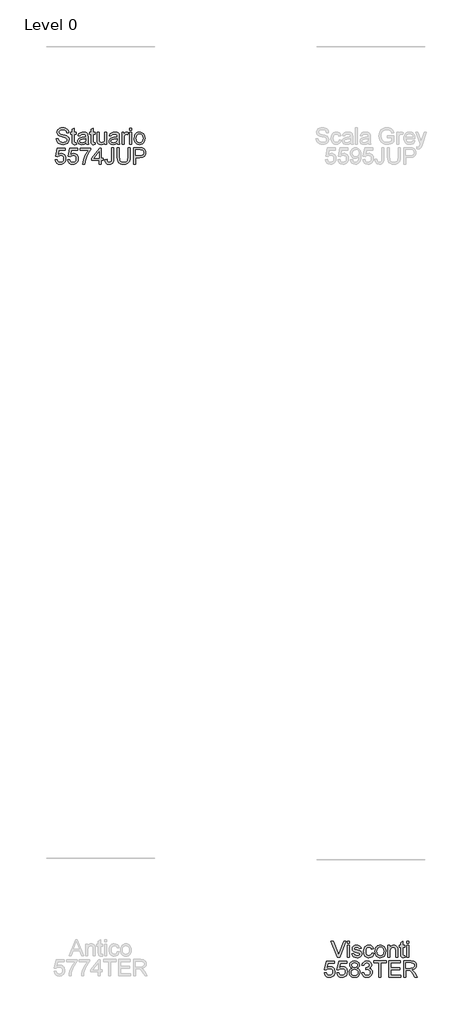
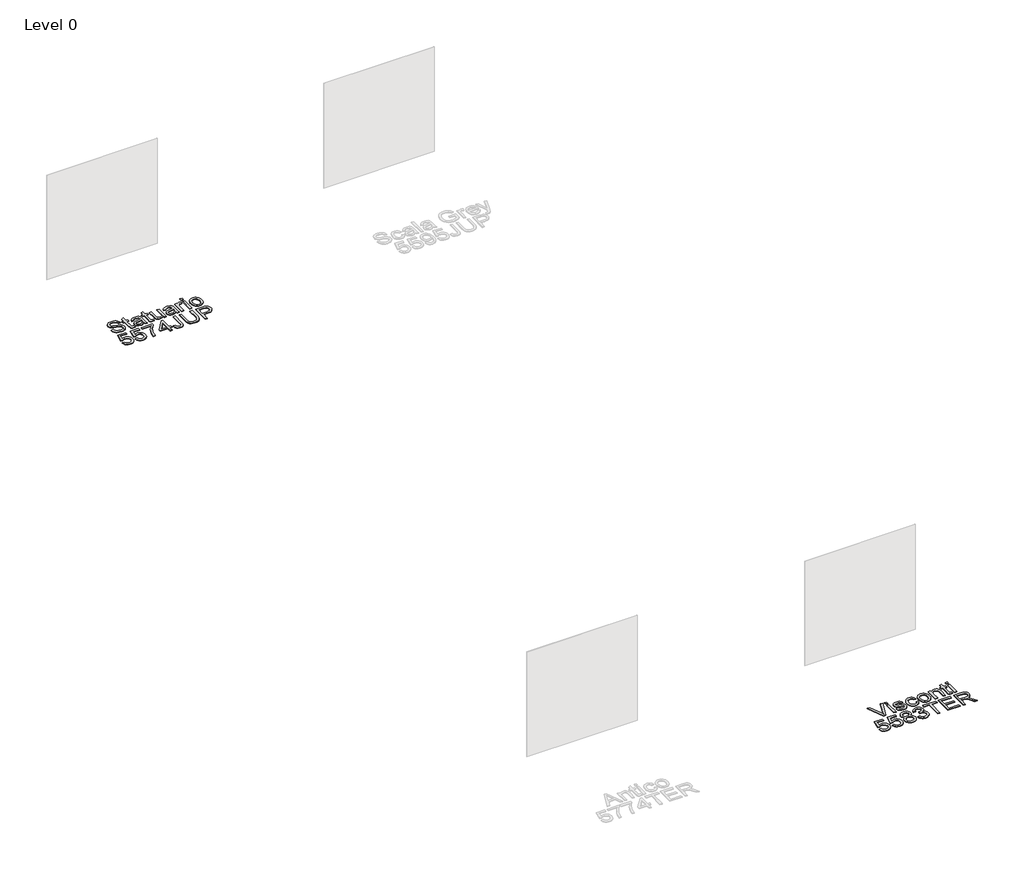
# One storey, part 26 of 29: 2 proxies.
"""IFC4 building model written with IfcOpenShell, lengths in millimetres."""

from ifc_helpers import new_model, si_unit, origin, origin_with_axes, place, context, project, spatial, polyline, outline, extrude, element, save

model = new_model("IFC4")

# Units and contexts
model_context = context("Model", 3, world=origin())
ifc_project = project(units=[si_unit("LENGTHUNIT", "METRE", prefix="MILLI")], contexts=[model_context])

# Site, building, storey
site = spatial("IfcSite", under=ifc_project)
building = spatial("IfcBuilding", under=site)
storey = spatial("IfcBuildingStorey", under=building, Name="Level 0", Elevation=0.0)

# Proxies
placement = place(None, origin())
element("IfcBuildingElementProxy", 1, Name="300mm Arial", ObjectType="300mm Arial", at=placement, inside=storey, context=model_context, shape_type="SweptSolid", body=[
    extrude(outline(polyline([(32732.3496088, -6900.2649241), (32770.0207251, -6900.2649241), (32774.3433386, -6921.1698185), (32782.160831, -6937.9728286), (32794.3561191, -6951.308551), (32811.8121198, -6961.8115819), (32833.1492755, -6968.6265959), (32856.9880288, -6970.8982672), (32877.9756966, -6969.1784189), (32896.3514023, -6964.0188739), (32911.241426, -6955.8518936), (32921.7720481, -6945.1097394), (32928.0352391, -6932.7764955), (32930.1229694, -6919.8362463), (32928.5594709, -6907.2270909), (32923.8689755, -6896.3285868), (32914.3408318, -6887.0303694), (32898.2643886, -6879.222074), (32843.4131831, -6864.837888), (32807.4067329, -6855.3189414), (32784.3681229, -6846.2598472), (32765.6153382, -6833.5863125), (32752.3256011, -6818.2272392), (32744.4069412, -6800.5137211), (32741.7673879, -6780.7768521), (32745.0323406, -6758.7131294), (32754.8271987, -6738.1393289), (32770.8944448, -6720.7017223), (32792.9765616, -6708.0465817), (32819.4824594, -6700.3486509), (32848.8210485, -6697.782674), (32880.6060529, -6700.4682126), (32908.4179317, -6708.5248283), (32931.2634036, -6721.7869742), (32948.1491872, -6740.0891034), (32958.8361591, -6762.2907818), (32963.0851962, -6787.2515752), (32925.4140799, -6787.2515752), (32918.4978984, -6764.7739853), (32904.0769242, -6748.5503893), (32881.5441519, -6738.7279401), (32850.2925765, -6735.4537903), (32818.305237, -6738.6911519), (32796.361076, -6748.4032365), (32783.6691471, -6762.695452), (32779.4385042, -6779.6732061), (32782.4367424, -6794.1493626), (32791.4314572, -6805.7928278), (32812.6950366, -6816.2038882), (32852.9413268, -6826.8356779), (32894.4752041, -6836.9340387), (32919.6015443, -6845.7448125), (32941.0766558, -6859.4116286), (32956.0586501, -6876.2790181), (32964.8602268, -6896.1630399), (32967.7940857, -6918.8797531), (32964.4187684, -6942.102304), (32954.2928165, -6963.9452975), (32937.8300972, -6982.7440675), (32915.4444778, -6996.8339479), (32888.5247128, -7005.6355246), (32858.4595568, -7008.5693835), (32821.5517956, -7005.4055984), (32791.1739398, -6995.9142429), (32766.9765016, -6980.0585289), (32748.609993, -6957.8016682), (32736.819375, -6930.6887651), (32732.3496088, -6900.2649241)])), origin_with_axes(), (0.0, 0.0, 1.0), 10.0),
    extrude(outline(polyline([(33099.6429928, -6972.4433716), (33104.3518823, -7004.96414), (33076.1721215, -7008.5693835), (33058.0907214, -7007.005885), (33044.6078463, -7002.3153896), (33035.0797026, -6995.0865084), (33028.8624969, -6985.9078526), (33025.4411944, -6970.1441091), (33024.3007602, -6943.1599648), (33024.3007602, -6820.213802), (32996.0474229, -6820.213802), (32996.0474229, -6782.5426857), (33024.3007602, -6782.5426857), (33024.3007602, -6728.758338), (33061.9718765, -6706.6118419), (33061.9718765, -6782.5426857), (33099.6429928, -6782.5426857), (33099.6429928, -6820.213802), (33061.9718765, -6820.213802), (33061.9718765, -6942.0563188), (33063.9584393, -6961.4804881), (33070.3963742, -6968.3598814), (33083.2354558, -6970.8982672), (33099.6429928, -6972.4433716)])), origin_with_axes(), (0.0, 0.0, 1.0), 10.0),
    extrude(outline(polyline([(33278.5807952, -6975.6071568), (33260.5821686, -6991.0398064), (33242.0501131, -7001.1381672), (33222.5615644, -7006.7115794), (33201.6934583, -7008.5693835), (33170.2119565, -7004.0996173), (33146.9894056, -6990.6903186), (33132.6695989, -6970.3280501), (33127.89633, -6944.9993748), (33129.6989518, -6929.3827841), (33135.1068171, -6915.2009331), (33143.4485414, -6903.0608273), (33154.0527399, -6893.5694718), (33180.4298789, -6881.2086368), (33213.0242237, -6875.5432541), (33251.5414686, -6869.5835657), (33278.360066, -6862.5938078), (33278.5807952, -6854.2060983), (33275.9872272, -6837.3938912), (33268.206523, -6826.3942195), (33250.8057046, -6818.2272392), (33226.5622811, -6815.5049125), (33204.1214794, -6817.3167313), (33188.4497064, -6822.7521878), (33177.7627345, -6832.8045633), (33170.2763359, -6848.4671392), (33132.6052196, -6843.7582497), (33139.144322, -6823.156858), (33148.9023919, -6806.9700502), (33162.7899373, -6794.590821), (33181.7174659, -6785.4121652), (33204.8664405, -6779.7283884), (33231.4183235, -6777.8337961), (33256.8849546, -6779.5076592), (33277.0724791, -6784.5292485), (33292.2935966, -6792.0800264), (33302.8610069, -6801.3414556), (33309.8691589, -6812.7917827), (33314.4125016, -6826.9092543), (33316.2519115, -6859.8714811), (33316.2519115, -6906.7396473), (33318.1648979, -6972.1858542), (33325.6696906, -7003.860494), (33287.9985743, -7003.860494), (33278.5807952, -6975.6071568)]), holes=[polyline([(33278.5807952, -6900.2649241), (33217.8066896, -6911.8164188), (33185.3962859, -6917.9232599), (33170.7177943, -6927.8560738), (33165.5674463, -6942.3506244), (33168.3725465, -6953.5526311), (33176.7878472, -6962.7312869), (33190.6294072, -6968.8565221), (33209.7132857, -6970.8982672), (33229.9467955, -6968.64499), (33247.8258604, -6961.8851583), (33262.3204111, -6951.9247533), (33272.4003777, -6940.069756), (33276.870144, -6927.8560738), (33278.360066, -6910.933502), (33278.5807952, -6900.2649241)])]), origin_with_axes(), (0.0, 0.0, 1.0), 10.0),
    extrude(outline(polyline([(33448.1008186, -6972.4433716), (33452.8097082, -7004.96414), (33424.6299473, -7008.5693835), (33406.5485473, -7007.005885), (33393.0656721, -7002.3153896), (33383.5375285, -6995.0865084), (33377.3203227, -6985.9078526), (33373.8990202, -6970.1441091), (33372.758586, -6943.1599648), (33372.758586, -6820.213802), (33344.5052488, -6820.213802), (33344.5052488, -6782.5426857), (33372.758586, -6782.5426857), (33372.758586, -6728.758338), (33410.4297023, -6706.6118419), (33410.4297023, -6782.5426857), (33448.1008186, -6782.5426857), (33448.1008186, -6820.213802), (33410.4297023, -6820.213802), (33410.4297023, -6942.0563188), (33412.4162651, -6961.4804881), (33418.8542, -6968.3598814), (33431.6932816, -6970.8982672), (33448.1008186, -6972.4433716)])), origin_with_axes(), (0.0, 0.0, 1.0), 10.0),
    extrude(outline(polyline([(33627.0386211, -7003.860494), (33627.0386211, -6965.8214957), (33613.4085932, -6984.5236966), (33597.5344851, -6997.8824116), (33579.4162968, -7005.8976405), (33559.0540284, -7008.5693835), (33540.7059139, -7006.6931853), (33523.6269922, -7001.0645908), (33509.2979885, -6992.6033049), (33499.1996277, -6982.2290327), (33487.9792269, -6954.4907302), (33485.7719349, -6919.4683643), (33485.7719349, -6782.5426857), (33523.4430512, -6782.5426857), (33523.4430512, -6901.7364521), (33525.7239196, -6940.1433324), (33531.2145584, -6952.9548229), (33540.6231404, -6962.6944987), (33553.3242663, -6968.8473251), (33568.6925366, -6970.8982672), (33584.9437238, -6968.8013398), (33600.1464472, -6962.5105577), (33612.6820262, -6952.605335), (33620.93178, -6939.6650858), (33625.5119108, -6921.9423707), (33627.0386211, -6897.6897502), (33627.0386211, -6782.5426857), (33664.7097374, -6782.5426857), (33664.7097374, -7003.860494), (33627.0386211, -7003.860494)])), origin_with_axes(), (0.0, 0.0, 1.0), 10.0),
    extrude(outline(polyline([(33857.7742084, -6975.6071568), (33839.7755818, -6991.0398064), (33821.2435263, -7001.1381672), (33801.7549776, -7006.7115794), (33780.8868715, -7008.5693835), (33749.4053697, -7004.0996173), (33726.1828188, -6990.6903186), (33711.8630121, -6970.3280501), (33707.0897432, -6944.9993748), (33708.892365, -6929.3827841), (33714.3002303, -6915.2009331), (33722.6419546, -6903.0608273), (33733.2461531, -6893.5694718), (33759.6232921, -6881.2086368), (33792.2176369, -6875.5432541), (33830.7348818, -6869.5835657), (33857.5534793, -6862.5938078), (33857.7742084, -6854.2060983), (33855.1806404, -6837.3938912), (33847.3999362, -6826.3942195), (33829.9991178, -6818.2272392), (33805.7556943, -6815.5049125), (33783.3148926, -6817.3167313), (33767.6431196, -6822.7521878), (33756.9561477, -6832.8045633), (33749.4697491, -6848.4671392), (33711.7986328, -6843.7582497), (33718.3377352, -6823.156858), (33728.0958051, -6806.9700502), (33741.9833505, -6794.590821), (33760.9108791, -6785.4121652), (33784.0598537, -6779.7283884), (33810.6117367, -6777.8337961), (33836.0783678, -6779.5076592), (33856.2658923, -6784.5292485), (33871.4870098, -6792.0800264), (33882.0544201, -6801.3414556), (33889.0625721, -6812.7917827), (33893.6059148, -6826.9092543), (33895.4453248, -6859.8714811), (33895.4453248, -6906.7396473), (33897.3583111, -6972.1858542), (33904.8631038, -7003.860494), (33867.1919875, -7003.860494), (33857.7742084, -6975.6071568)]), holes=[polyline([(33857.7742084, -6900.2649241), (33797.0001028, -6911.8164188), (33764.5896991, -6917.9232599), (33749.9112075, -6927.8560738), (33744.7608595, -6942.3506244), (33747.5659597, -6953.5526311), (33755.9812604, -6962.7312869), (33769.8228205, -6968.8565221), (33788.906699, -6970.8982672), (33809.1402087, -6968.64499), (33827.0192737, -6961.8851583), (33841.5138243, -6951.9247533), (33851.5937909, -6940.069756), (33856.0635572, -6927.8560738), (33857.5534793, -6910.933502), (33857.7742084, -6900.2649241)])]), origin_with_axes(), (0.0, 0.0, 1.0), 10.0),
    extrude(outline(polyline([(33947.2431097, -7003.860494), (33947.2431097, -6782.5426857), (33980.2053364, -6782.5426857), (33980.2053364, -6815.2841833), (33992.3822305, -6796.3014723), (34003.6026313, -6785.1178596), (34014.8598204, -6779.654812), (34027.147079, -6777.8337961), (34045.9090608, -6780.7400639), (34064.9653481, -6789.4588672), (34052.3837839, -6823.2304343), (34039.1400321, -6817.4362929), (34025.8962802, -6815.5049125), (34014.6482882, -6817.3627165), (34004.5959127, -6822.9361288), (33996.4749177, -6831.8020848), (33991.0210671, -6843.5375205), (33986.4409363, -6864.5803706), (33984.914226, -6887.5362071), (33984.914226, -7003.860494), (33947.2431097, -7003.860494)])), origin_with_axes(), (0.0, 0.0, 1.0), 10.0),
    extrude(outline(polyline([(34088.5097958, -6740.1626798), (34088.5097958, -6702.4915635), (34126.1809121, -6702.4915635), (34126.1809121, -6740.1626798), (34088.5097958, -6740.1626798)])), origin_with_axes(), (0.0, 0.0, 1.0), 10.0),
    extrude(outline(polyline([(34088.5097958, -7003.860494), (34088.5097958, -6782.5426857), (34126.1809121, -6782.5426857), (34126.1809121, -7003.860494), (34088.5097958, -7003.860494)])), origin_with_axes(), (0.0, 0.0, 1.0), 10.0),
    extrude(outline(polyline([(34173.2698075, -6893.2015898), (34175.3069541, -6864.5389839), (34181.4183937, -6839.8403064), (34191.6041264, -6819.1055575), (34205.8641523, -6802.334737), (34220.2207471, -6791.6155754), (34236.0672641, -6783.9590314), (34253.4037031, -6779.3651049), (34272.2300642, -6777.8337961), (34293.0130977, -6779.698498), (34311.8049698, -6785.2926036), (34328.6056807, -6794.6161129), (34343.4152303, -6807.669026), (34355.5024531, -6824.0098843), (34364.1361837, -6843.1972296), (34369.316422, -6865.2310619), (34371.0431681, -6890.1113811), (34367.9897476, -6928.1687735), (34358.8294859, -6957.1394806), (34343.8290975, -6978.8353213), (34323.2552969, -6995.0681143), (34298.8187354, -7005.1940662), (34272.2300642, -7008.5693835), (34251.1435281, -7006.7115794), (34232.176912, -7001.1381672), (34215.3302159, -6991.8491468), (34200.6034398, -6978.8445183), (34188.6449756, -6962.3450108), (34180.1032156, -6942.5713536), (34174.9781595, -6919.5235466), (34173.2698075, -6893.2015898)]), holes=[polyline([(34210.9409238, -6893.1280134), (34215.3003255, -6927.2214773), (34228.3785304, -6951.5108861), (34248.0602171, -6966.0514219), (34272.2300642, -6970.8982672), (34296.2895467, -6966.0238308), (34315.9344452, -6951.4005215), (34329.0126502, -6926.789216), (34333.3720518, -6891.950791), (34328.985059, -6858.8506085), (34315.8240806, -6834.8922936), (34296.151591, -6820.3517577), (34272.2300642, -6815.5049125), (34248.0602171, -6820.3333636), (34228.3785304, -6834.8187172), (34215.3003255, -6859.0529436), (34210.9409238, -6893.1280134)])]), origin_with_axes(), (0.0, 0.0, 1.0), 10.0),
    extrude(outline(polyline([(32711.1596059, -7289.7338254), (32748.8307222, -7285.0249358), (32755.7469037, -7307.6404815), (32767.8134331, -7323.8364863), (32784.9751282, -7333.5761621), (32807.1768066, -7336.8227207), (32834.1793451, -7332.3069693), (32854.4128548, -7318.7597148), (32867.0496013, -7297.7444558), (32871.2618502, -7270.8246908), (32867.3163158, -7245.4776213), (32855.4797126, -7226.0902402), (32835.6600701, -7213.7845875), (32807.7654178, -7209.6827032), (32789.4908797, -7211.3197781), (32774.6928264, -7216.2310027), (32753.5396117, -7233.2271509), (32715.8684954, -7228.5182614), (32748.8307222, -7073.1249066), (32894.8062979, -7073.1249066), (32894.8062979, -7110.7960229), (32779.2913514, -7110.7960229), (32763.17812, -7193.790201), (32790.0886879, -7177.4562404), (32818.2868429, -7172.0115869), (32836.6326581, -7173.6992456), (32853.4839528, -7178.7622215), (32868.8407268, -7187.2005148), (32882.7029802, -7199.0141254), (32894.1785992, -7213.4810848), (32902.3754699, -7229.8794248), (32907.2935923, -7248.2091452), (32908.9329665, -7268.470246), (32903.0284605, -7306.1413624), (32895.6478279, -7322.9351754), (32885.3149424, -7338.3678251), (32869.6615635, -7354.1729553), (32851.3962224, -7365.4623341), (32830.5189192, -7372.2359613), (32807.0296538, -7374.4938371), (32770.0299222, -7368.6904986), (32754.3512514, -7361.4363255), (32740.5533773, -7351.2804832), (32729.0731598, -7338.7288093), (32720.3474587, -7324.2871418), (32711.1596059, -7289.7338254)])), origin_with_axes(), (0.0, 0.0, 1.0), 10.0),
    extrude(outline(polyline([(32941.8951933, -7289.7338254), (32979.5663096, -7285.0249358), (32986.4824911, -7307.6404815), (32998.5490205, -7323.8364863), (33015.7107156, -7333.5761621), (33037.912394, -7336.8227207), (33064.9149324, -7332.3069693), (33085.1484422, -7318.7597148), (33097.7851887, -7297.7444558), (33101.9974376, -7270.8246908), (33098.0519032, -7245.4776213), (33086.2153, -7226.0902402), (33066.3956575, -7213.7845875), (33038.5010052, -7209.6827032), (33020.2264671, -7211.3197781), (33005.4284138, -7216.2310027), (32984.2751991, -7233.2271509), (32946.6040828, -7228.5182614), (32979.5663096, -7073.1249066), (33125.5418852, -7073.1249066), (33125.5418852, -7110.7960229), (33010.0269388, -7110.7960229), (32993.9137074, -7193.790201), (33020.8242753, -7177.4562404), (33049.0224303, -7172.0115869), (33067.3682455, -7173.6992456), (33084.2195401, -7178.7622215), (33099.5763142, -7187.2005148), (33113.4385676, -7199.0141254), (33124.9141866, -7213.4810848), (33133.1110573, -7229.8794248), (33138.0291797, -7248.2091452), (33139.6685539, -7268.470246), (33133.7640478, -7306.1413624), (33126.3834153, -7322.9351754), (33116.0505298, -7338.3678251), (33100.3971509, -7354.1729553), (33082.1318098, -7365.4623341), (33061.2545066, -7372.2359613), (33037.7652412, -7374.4938371), (33000.7655095, -7368.6904986), (32985.0868388, -7361.4363255), (32971.2889647, -7351.2804832), (32959.8087472, -7338.7288093), (32951.0830461, -7324.2871418), (32941.8951933, -7289.7338254)])), origin_with_axes(), (0.0, 0.0, 1.0), 10.0),
    extrude(outline(polyline([(33172.6307806, -7110.7960229), (33172.6307806, -7073.1249066), (33370.4041412, -7073.1249066), (33370.4041412, -7103.5855358), (33342.2151834, -7139.2608923), (33314.302137, -7184.6299393), (33289.6816344, -7235.5540045), (33271.3703081, -7287.8944154), (33262.3939875, -7327.0554538), (33257.3907923, -7369.7849475), (33219.719676, -7369.7849475), (33223.7939691, -7330.9550029), (33234.6924732, -7284.8042066), (33252.1208827, -7235.8850983), (33275.7848921, -7188.7502177), (33303.4128299, -7146.1402856), (33332.7330249, -7110.7960229), (33172.6307806, -7110.7960229)])), origin_with_axes(), (0.0, 0.0, 1.0), 10.0),
    extrude(outline(polyline([(33525.797496, -7369.7849475), (33525.797496, -7299.1516044), (33389.2396994, -7299.1516044), (33389.2396994, -7261.4804881), (33535.2152751, -7073.1249066), (33563.4686123, -7073.1249066), (33563.4686123, -7261.4804881), (33601.1397286, -7261.4804881), (33601.1397286, -7299.1516044), (33563.4686123, -7299.1516044), (33563.4686123, -7369.7849475), (33525.797496, -7369.7849475)]), holes=[polyline([(33525.797496, -7261.4804881), (33525.797496, -7145.0826249), (33435.5928308, -7261.4804881), (33525.797496, -7261.4804881)])]), origin_with_axes(), (0.0, 0.0, 1.0), 10.0),
    extrude(outline(polyline([(33629.3930658, -7285.1720886), (33667.0641821, -7280.3160463), (33670.9821254, -7307.7048608), (33679.940052, -7324.8297677), (33693.6252622, -7333.8244825), (33711.7250564, -7336.8227207), (33725.6401928, -7335.1212665), (33737.5135842, -7330.0169038), (33746.6738459, -7321.9786822), (33752.4495932, -7311.4756513), (33756.5330834, -7274.1356288), (33756.5330834, -7068.4160171), (33794.2041997, -7068.4160171), (33794.2041997, -7273.4734412), (33791.9325284, -7307.0150821), (33785.1175144, -7332.0034666), (33773.3636847, -7350.2596106), (33756.275566, -7363.60453), (33734.8188486, -7371.7715103), (33709.9592228, -7374.4938371), (33675.1391919, -7368.8744396), (33661.1918658, -7361.8501927), (33649.5529992, -7352.0162472), (33640.4295257, -7339.409391), (33634.028379, -7324.0664126), (33629.3930658, -7285.1720886)])), origin_with_axes(), (0.0, 0.0, 1.0), 10.0),
    extrude(outline(polyline([(34057.9020138, -7068.4160171), (34095.5731301, -7068.4160171), (34095.5731301, -7242.277048), (34093.0163503, -7282.9923878), (34085.3460107, -7314.3451308), (34071.017007, -7338.533372), (34048.4842347, -7357.7552063), (34017.6925118, -7370.3091794), (33978.5866557, -7374.4938371), (33940.3361252, -7370.8518053), (33909.7559344, -7359.92571), (33886.8368861, -7342.0926303), (33871.5697833, -7317.7296452), (33862.9889357, -7285.052527), (33860.1286532, -7242.277048), (33860.1286532, -7068.4160171), (33897.7997695, -7068.4160171), (33897.7997695, -7240.9526728), (33899.6575736, -7274.8070134), (33905.2309858, -7298.3790523), (33915.3293466, -7314.7038158), (33930.7619963, -7326.8163305), (33950.8851414, -7334.3211232), (33975.0549885, -7336.8227207), (34013.3698983, -7331.8747079), (34027.7126976, -7325.6896919), (34038.8457265, -7317.0306694), (34047.1828522, -7304.8537754), (34053.137942, -7288.1151446), (34057.9020138, -7240.9526728), (34057.9020138, -7068.4160171)])), origin_with_axes(), (0.0, 0.0, 1.0), 10.0),
    extrude(outline(polyline([(34161.4975837, -7369.7849475), (34161.4975837, -7068.4160171), (34273.1865574, -7068.4160171), (34318.2153136, -7071.2854966), (34338.2924735, -7076.6473767), (34354.8195721, -7085.375377), (34368.1277033, -7097.8649708), (34378.5479608, -7114.5116311), (34385.2802013, -7134.1473326), (34387.5242815, -7155.6040499), (34386.0090675, -7174.1039158), (34381.4634256, -7191.1230566), (34373.8873558, -7206.6614723), (34363.280858, -7220.7191631), (34348.7196288, -7232.3718253), (34329.2793646, -7240.6951554), (34304.9600655, -7245.6891535), (34275.7617314, -7247.3538195), (34199.1687, -7247.3538195), (34199.1687, -7369.7849475), (34161.4975837, -7369.7849475)]), holes=[polyline([(34199.1687, -7209.6827032), (34277.9690233, -7209.6827032), (34311.3727085, -7206.2246125), (34333.4456282, -7195.8503402), (34345.751281, -7179.2036799), (34349.8531652, -7156.9284251), (34347.4343411, -7140.0058533), (34340.1778687, -7125.7320319), (34328.985059, -7114.9898777), (34314.7572229, -7108.6623073), (34277.0861066, -7106.0871334), (34199.1687, -7106.0871334), (34199.1687, -7209.6827032)])]), origin_with_axes(), (0.0, 0.0, 1.0), 10.0),
])
element("IfcBuildingElementProxy", 2, Name="300mm Arial", ObjectType="300mm Arial", at=placement, inside=storey, context=model_context, shape_type="SweptSolid", body=[
    extrude(outline(polyline([(37936.7448453, -22033.860494), (37816.8153149, -21732.4915635), (37857.1351816, -21732.4915635), (37937.4070329, -21949.6155171), (37953.6674171, -21998.5438224), (37969.7070721, -21949.6155171), (38050.1996526, -21732.4915635), (38090.5195193, -21732.4915635), (37975.6667604, -22033.860494), (37936.7448453, -22033.860494)])), origin_with_axes(), (0.0, 0.0, 1.0), 10.0),
    extrude(outline(polyline([(38120.8329957, -22033.860494), (38120.8329957, -21812.5426857), (38158.504112, -21812.5426857), (38158.504112, -22033.860494), (38120.8329957, -22033.860494)])), origin_with_axes(), (0.0, 0.0, 1.0), 10.0),
    extrude(outline(polyline([(38120.8329957, -21770.1626798), (38120.8329957, -21732.4915635), (38158.504112, -21732.4915635), (38158.504112, -21770.1626798), (38120.8329957, -21770.1626798)])), origin_with_axes(), (0.0, 0.0, 1.0), 10.0),
    extrude(outline(polyline([(38200.8841179, -21967.9360404), (38238.5552342, -21963.2271509), (38244.4965284, -21979.3403823), (38255.9928407, -21991.1861825), (38273.1177476, -21998.470246), (38295.9448254, -22000.8982672), (38318.4959917, -21998.6725811), (38334.3517057, -21991.9955229), (38343.7326966, -21982.3202265), (38346.8596935, -21971.0998256), (38343.7143025, -21961.4981055), (38334.2781293, -21954.1772538), (38295.503367, -21943.4350996), (38238.7759634, -21925.0042116), (38224.4193685, -21915.7427824), (38214.0175051, -21903.4831149), (38207.6991318, -21889.0069584), (38205.5930074, -21873.0960621), (38207.2852646, -21858.5003439), (38212.3620361, -21845.0266659), (38220.3634695, -21833.2084568), (38230.8297123, -21823.5791455), (38254.7788302, -21812.4323211), (38287.1892339, -21807.8337961), (38311.7085689, -21809.6824032), (38333.0273305, -21815.2282242), (38350.1706315, -21823.9286334), (38362.1635845, -21835.2410048), (38370.1098356, -21850.0022698), (38375.1130308, -21869.0493601), (38337.4419145, -21873.7582497), (38332.6870397, -21861.9032524), (38323.2784577, -21852.972917), (38309.1241979, -21847.3719136), (38290.1322899, -21845.5049125), (38268.5008286, -21847.2891401), (38254.0798544, -21852.6418232), (38245.9680564, -21860.3673451), (38243.2641237, -21869.2700893), (38247.752284, -21880.2329728), (38261.8053763, -21888.5471059), (38294.2525682, -21896.5669334), (38349.5452321, -21914.2988455), (38364.1501473, -21922.7785255), (38375.2233954, -21934.3852025), (38382.2039562, -21949.1556646), (38384.5308099, -21967.1267001), (38381.799286, -21985.7047408), (38373.6047146, -22003.1791356), (38360.2597952, -22018.1795239), (38342.0772276, -22029.3355454), (38320.1146725, -22036.260924), (38295.4297906, -22038.5693835), (38257.4459746, -22034.1180114), (38229.7260663, -22020.763895), (38211.2216019, -21998.654187), (38200.8841179, -21967.9360404)])), origin_with_axes(), (0.0, 0.0, 1.0), 10.0),
    extrude(outline(polyline([(38568.1775018, -21953.8093718), (38605.8486182, -21958.5182614), (38595.3455872, -21992.0231141), (38575.6087181, -22017.3425924), (38548.4958151, -22033.2626857), (38515.8646821, -22038.5693835), (38494.7367593, -22036.7184772), (38475.7931358, -22031.1657584), (38459.0338117, -22021.9112269), (38444.4587869, -22008.9548829), (38432.6612711, -21992.5404481), (38424.2344742, -21972.9116444), (38419.178396, -21950.0684718), (38417.4930366, -21924.0109302), (38420.3717132, -21890.4876834), (38429.0077431, -21861.4342028), (38443.5390819, -21837.9725286), (38464.1036854, -21821.2247008), (38488.7057938, -21811.1815223), (38515.3496473, -21807.8337961), (38547.180637, -21812.4323211), (38572.628874, -21826.2278959), (38590.885018, -21848.4847566), (38601.1397286, -21878.4671392), (38563.4686123, -21883.1760288), (38556.6352042, -21866.7409006), (38545.9942175, -21854.9594797), (38532.1342634, -21847.8685543), (38515.6439529, -21845.5049125), (38491.2993619, -21850.1586197), (38471.9763601, -21864.1197414), (38459.3672047, -21888.1424357), (38455.1641529, -21922.9808606), (38459.2752342, -21958.2883351), (38471.6084781, -21982.3938029), (38490.581992, -21996.2721511), (38514.6138833, -22000.8982672), (38534.1208261, -21998.0103936), (38550.1144959, -21989.3467726), (38561.748764, -21974.6866751), (38568.1775018, -21953.8093718)])), origin_with_axes(), (0.0, 0.0, 1.0), 10.0),
    extrude(outline(polyline([(38629.3930658, -21923.2015898), (38631.4302124, -21894.5389839), (38637.541652, -21869.8403064), (38647.7273848, -21849.1055575), (38661.9874106, -21832.334737), (38676.3440055, -21821.6155754), (38692.1905224, -21813.9590314), (38709.5269614, -21809.3651049), (38728.3533225, -21807.8337961), (38749.136356, -21809.698498), (38767.9282282, -21815.2926036), (38784.728939, -21824.6161129), (38799.5384886, -21837.669026), (38811.6257114, -21854.0098843), (38820.259442, -21873.1972296), (38825.4396803, -21895.2310619), (38827.1664265, -21920.1113811), (38824.1130059, -21958.1687735), (38814.9527442, -21987.1394806), (38799.9523559, -22008.8353213), (38779.3785553, -22025.0681143), (38754.9419937, -22035.1940662), (38728.3533225, -22038.5693835), (38707.2667864, -22036.7115794), (38688.3001703, -22031.1381672), (38671.4534742, -22021.8491468), (38656.7266981, -22008.8445183), (38644.768234, -21992.3450108), (38636.2264739, -21972.5713536), (38631.1014179, -21949.5235466), (38629.3930658, -21923.2015898)]), holes=[polyline([(38667.0641821, -21923.1280134), (38671.4235838, -21957.2214773), (38684.5017887, -21981.5108861), (38704.1834755, -21996.0514219), (38728.3533225, -22000.8982672), (38752.412805, -21996.0238308), (38772.0577036, -21981.4005215), (38785.1359085, -21956.789216), (38789.4953101, -21921.950791), (38785.1083174, -21888.8506085), (38771.947339, -21864.8922936), (38752.2748493, -21850.3517577), (38728.3533225, -21845.5049125), (38704.1834755, -21850.3333636), (38684.5017887, -21864.8187172), (38671.4235838, -21889.0529436), (38667.0641821, -21923.1280134)])]), origin_with_axes(), (0.0, 0.0, 1.0), 10.0),
    extrude(outline(polyline([(38869.5464323, -22033.860494), (38869.5464323, -21812.5426857), (38907.2175486, -21812.5426857), (38907.2175486, -21843.4447733), (38920.3049506, -21827.8649708), (38936.0227088, -21816.7365404), (38954.3708233, -21810.0594822), (38975.3492941, -21807.8337961), (38993.9181378, -21809.6272209), (39010.923483, -21815.0074951), (39025.105334, -21823.303234), (39035.2036947, -21833.8430532), (39046.497672, -21861.5445674), (39048.4842347, -21897.964885), (39048.4842347, -22033.860494), (39010.8131184, -22033.860494), (39010.8131184, -21903.0416565), (39006.4721109, -21869.7115477), (39000.4664373, -21859.7879309), (38991.1314317, -21852.0900002), (38979.1660698, -21847.1511844), (38965.2693274, -21845.5049125), (38943.2056048, -21849.2021265), (38924.3976378, -21860.2937687), (38916.8813488, -21869.3482643), (38911.5125709, -21881.7228949), (38907.2175486, -21916.4325611), (38907.2175486, -22033.860494), (38869.5464323, -22033.860494)])), origin_with_axes(), (0.0, 0.0, 1.0), 10.0),
    extrude(outline(polyline([(39180.3331418, -22002.4433716), (39185.0420314, -22034.96414), (39156.8622705, -22038.5693835), (39138.7808705, -22037.005885), (39125.2979953, -22032.3153896), (39115.7698517, -22025.0865084), (39109.5526459, -22015.9078526), (39106.1313434, -22000.1441091), (39104.9909092, -21973.1599648), (39104.9909092, -21850.213802), (39076.737572, -21850.213802), (39076.737572, -21812.5426857), (39104.9909092, -21812.5426857), (39104.9909092, -21758.758338), (39142.6620255, -21736.6118419), (39142.6620255, -21812.5426857), (39180.3331418, -21812.5426857), (39180.3331418, -21850.213802), (39142.6620255, -21850.213802), (39142.6620255, -21972.0563188), (39144.6485883, -21991.4804881), (39151.0865232, -21998.3598814), (39163.9256048, -22000.8982672), (39180.3331418, -22002.4433716)])), origin_with_axes(), (0.0, 0.0, 1.0), 10.0),
    extrude(outline(polyline([(39218.0042581, -21770.1626798), (39218.0042581, -21732.4915635), (39255.6753744, -21732.4915635), (39255.6753744, -21770.1626798), (39218.0042581, -21770.1626798)])), origin_with_axes(), (0.0, 0.0, 1.0), 10.0),
    extrude(outline(polyline([(39218.0042581, -22033.860494), (39218.0042581, -21812.5426857), (39255.6753744, -21812.5426857), (39255.6753744, -22033.860494), (39218.0042581, -22033.860494)])), origin_with_axes(), (0.0, 0.0, 1.0), 10.0),
    extrude(outline(polyline([(37689.969603, -22319.7338254), (37727.6407193, -22315.0249358), (37734.5569008, -22337.6404815), (37746.6234302, -22353.8364863), (37763.7851253, -22363.5761621), (37785.9868037, -22366.8227207), (37812.9893421, -22362.3069693), (37833.2228519, -22348.7597148), (37845.8595984, -22327.7444558), (37850.0718473, -22300.8246908), (37846.1263129, -22275.4776213), (37834.2897097, -22256.0902402), (37814.4700672, -22243.7845875), (37786.5754149, -22239.6827032), (37768.3008768, -22241.3197781), (37753.5028235, -22246.2310027), (37732.3496088, -22263.2271509), (37694.6784925, -22258.5182614), (37727.6407193, -22103.1249066), (37873.616295, -22103.1249066), (37873.616295, -22140.7960229), (37758.1013485, -22140.7960229), (37741.9881171, -22223.790201), (37768.898685, -22207.4562404), (37797.09684, -22202.0115869), (37815.4426552, -22203.6992456), (37832.2939498, -22208.7622215), (37847.6507239, -22217.2005148), (37861.5129773, -22229.0141254), (37872.9885963, -22243.4810848), (37881.185467, -22259.8794248), (37886.1035894, -22278.2091452), (37887.7429636, -22298.470246), (37881.8384575, -22336.1413624), (37874.457825, -22352.9351754), (37864.1249395, -22368.3678251), (37848.4715606, -22384.1729553), (37830.2062195, -22395.4623341), (37809.3289163, -22402.2359613), (37785.8396509, -22404.4938371), (37748.8399192, -22398.6904986), (37733.1612485, -22391.4363255), (37719.3633744, -22381.2804832), (37707.8831569, -22368.7288093), (37699.1574558, -22354.2871418), (37689.969603, -22319.7338254)])), origin_with_axes(), (0.0, 0.0, 1.0), 10.0),
    extrude(outline(polyline([(37920.7051903, -22319.7338254), (37958.3763066, -22315.0249358), (37965.2924881, -22337.6404815), (37977.3590176, -22353.8364863), (37994.5207127, -22363.5761621), (38016.7223911, -22366.8227207), (38043.7249295, -22362.3069693), (38063.9584393, -22348.7597148), (38076.5951858, -22327.7444558), (38080.8074346, -22300.8246908), (38076.8619002, -22275.4776213), (38065.025297, -22256.0902402), (38045.2056546, -22243.7845875), (38017.3110023, -22239.6827032), (37999.0364642, -22241.3197781), (37984.2384109, -22246.2310027), (37963.0851962, -22263.2271509), (37925.4140799, -22258.5182614), (37958.3763066, -22103.1249066), (38104.3518823, -22103.1249066), (38104.3518823, -22140.7960229), (37988.8369358, -22140.7960229), (37972.7237045, -22223.790201), (37999.6342724, -22207.4562404), (38027.8324273, -22202.0115869), (38046.1782426, -22203.6992456), (38063.0295372, -22208.7622215), (38078.3863113, -22217.2005148), (38092.2485647, -22229.0141254), (38103.7241837, -22243.4810848), (38111.9210544, -22259.8794248), (38116.8391768, -22278.2091452), (38118.4785509, -22298.470246), (38112.5740449, -22336.1413624), (38105.1934124, -22352.9351754), (38094.8605269, -22368.3678251), (38079.207148, -22384.1729553), (38060.9418069, -22395.4623341), (38040.0645037, -22402.2359613), (38016.5752383, -22404.4938371), (37979.5755066, -22398.6904986), (37963.8968358, -22391.4363255), (37950.0989617, -22381.2804832), (37938.6187442, -22368.7288093), (37929.8930432, -22354.2871418), (37920.7051903, -22319.7338254)])), origin_with_axes(), (0.0, 0.0, 1.0), 10.0),
    extrude(outline(polyline([(38206.3287714, -22233.7965913), (38186.159641, -22223.8637774), (38172.0053812, -22210.3992964), (38163.6452629, -22193.6790597), (38160.8585568, -22173.9789789), (38162.37607, -22158.6153071), (38166.9286097, -22144.5300252), (38174.5161759, -22131.7231332), (38185.1387685, -22120.1946312), (38198.2859513, -22110.6664875), (38213.447288, -22103.8606706), (38249.8124232, -22098.4160171), (38286.3982876, -22103.9894293), (38301.7251713, -22110.9561946), (38315.0746892, -22120.709666), (38325.8904198, -22132.4634957), (38333.6159417, -22145.4313361), (38338.2512549, -22159.613187), (38339.7963592, -22175.0090485), (38337.0464413, -22194.0745329), (38328.7966876, -22210.509661), (38314.9551275, -22223.8913686), (38295.4297906, -22233.7965913), (38318.6155534, -22245.7435591), (38335.4921399, -22263.3375155), (38345.7836387, -22285.732332), (38349.2141383, -22312.0818799), (38347.5126841, -22330.8714528), (38342.4083214, -22348.0975272), (38333.9010503, -22363.7601031), (38321.9908707, -22377.8591806), (38307.303182, -22389.5118428), (38290.4633837, -22397.8351729), (38271.4714757, -22402.829171), (38250.327458, -22404.4938371), (38229.1834403, -22402.8222732), (38210.1915323, -22397.8075818), (38193.351734, -22389.4497627), (38178.6640454, -22377.748816), (38166.7538658, -22363.5508703), (38158.2465946, -22347.7020541), (38153.1422319, -22330.2023674), (38151.4407777, -22311.0518103), (38155.0092331, -22283.6813898), (38165.7145991, -22261.1670117), (38183.0050529, -22244.2812282), (38206.3287714, -22233.7965913)]), holes=[polyline([(38189.111894, -22309.7274351), (38195.4026761, -22338.0911369), (38204.1122824, -22350.2588339), (38217.6595368, -22359.317928), (38233.8831328, -22364.9465226), (38250.6217636, -22366.8227207), (38276.2631387, -22362.8771864), (38295.503367, -22351.0405832), (38307.5331083, -22333.1155329), (38311.543022, -22310.9046575), (38307.4043496, -22288.316703), (38294.9883322, -22269.9961796), (38275.3066455, -22257.8560738), (38249.3709648, -22253.8093718), (38224.0882747, -22257.8008915), (38205.0411844, -22269.7754504), (38193.0942166, -22287.7464859), (38189.111894, -22309.7274351)]), polyline([(38198.5296731, -22175.0826249), (38201.8682022, -22191.52695), (38211.8837895, -22204.6603373), (38228.2821295, -22213.268776), (38250.7689164, -22216.1382555), (38272.7314715, -22213.2871701), (38288.8814911, -22204.7339137), (38298.814305, -22192.0419848), (38302.1252429, -22176.774882), (38298.7039404, -22160.9283651), (38288.4400327, -22147.822569), (38272.0692839, -22139.0209923), (38250.327458, -22136.0871334), (38228.4476763, -22138.9566129), (38212.1045187, -22147.5650516), (38201.9233845, -22160.1834041), (38198.5296731, -22175.0826249)])]), origin_with_axes(), (0.0, 0.0, 1.0), 10.0),
    extrude(outline(polyline([(38382.1763651, -22319.7338254), (38419.8474814, -22315.0249358), (38428.2811761, -22338.6981422), (38440.6328141, -22354.6826149), (38457.5094006, -22363.7876943), (38479.517941, -22366.8227207), (38505.3432571, -22362.6472601), (38525.2824612, -22350.1208782), (38538.0295723, -22331.4324728), (38542.2786094, -22308.7709419), (38538.0663605, -22287.2590422), (38525.429614, -22269.8122386), (38506.2997503, -22258.2515469), (38482.6081498, -22254.397983), (38456.1942225, -22258.5182614), (38460.3880773, -22220.8471451), (38466.421342, -22221.2886035), (38488.9909024, -22218.5846708), (38509.1692298, -22210.4728728), (38523.406263, -22196.7508744), (38528.1519408, -22177.2163404), (38524.7122441, -22160.9467592), (38514.3931542, -22147.7489926), (38498.6478048, -22139.0025982), (38478.9293298, -22136.0871334), (38459.1740667, -22139.0301893), (38443.0240471, -22147.8593572), (38431.2334291, -22162.574637), (38424.5563709, -22183.1760288), (38386.8852546, -22178.4671392), (38397.9768968, -22144.6403898), (38417.7137658, -22119.3852908), (38444.7163043, -22103.6583355), (38477.6049546, -22098.4160171), (38501.2873581, -22101.0003881), (38523.038381, -22108.7535011), (38541.3772985, -22120.9855775), (38554.8233854, -22137.0068384), (38563.0731392, -22155.4653175), (38565.8230571, -22175.0090485), (38563.2110949, -22193.2192072), (38555.3752084, -22209.7371088), (38542.4257622, -22223.8085951), (38524.4731208, -22234.6795081), (38548.0543567, -22244.2076518), (38565.5287515, -22260.4312477), (38576.3444821, -22282.4673793), (38579.9497257, -22309.4331295), (38578.1471039, -22328.5445992), (38572.7392386, -22346.1477526), (38563.7261297, -22362.2425899), (38551.1077773, -22376.829111), (38535.7349084, -22388.9324287), (38518.4582502, -22397.5776555), (38499.2778027, -22402.7647917), (38478.1935658, -22404.4938371), (38459.1372785, -22403.0177105), (38441.7732483, -22398.589331), (38426.1014753, -22391.2086985), (38412.1219595, -22380.875813), (38400.4003194, -22368.1976797), (38391.5021737, -22353.781304), (38385.4275222, -22337.6266859), (38382.1763651, -22319.7338254)])), origin_with_axes(), (0.0, 0.0, 1.0), 10.0),
    extrude(outline(polyline([(38702.3808537, -22399.7849475), (38702.3808537, -22136.0871334), (38603.4941734, -22136.0871334), (38603.4941734, -22098.4160171), (38838.9386503, -22098.4160171), (38838.9386503, -22136.0871334), (38740.05197, -22136.0871334), (38740.05197, -22399.7849475), (38702.3808537, -22399.7849475)])), origin_with_axes(), (0.0, 0.0, 1.0), 10.0),
    extrude(outline(polyline([(38881.3186561, -22399.7849475), (38881.3186561, -22098.4160171), (39097.9275749, -22098.4160171), (39097.9275749, -22136.0871334), (38918.9897724, -22136.0871334), (38918.9897724, -22225.5560346), (39088.5097958, -22225.5560346), (39088.5097958, -22263.2271509), (38918.9897724, -22263.2271509), (38918.9897724, -22362.1138312), (39102.6364644, -22362.1138312), (39102.6364644, -22399.7849475), (38881.3186561, -22399.7849475)])), origin_with_axes(), (0.0, 0.0, 1.0), 10.0),
    extrude(outline(polyline([(39159.1431389, -22399.7849475), (39159.1431389, -22098.4160171), (39289.0054832, -22098.4160171), (39323.9082875, -22100.4485651), (39349.3013422, -22106.5462092), (39367.8609889, -22117.8033982), (39382.263569, -22135.3145812), (39391.5066041, -22157.0288159), (39394.5876158, -22180.8951604), (39389.4832531, -22210.5832374), (39374.1701651, -22235.1945429), (39362.5703859, -22245.2239258), (39348.1884992, -22253.2391547), (39311.0784029, -22263.2271509), (39332.489135, -22279.3403823), (39363.0233406, -22318.1151446), (39413.2760212, -22399.7849475), (39369.4980637, -22399.7849475), (39330.2818431, -22337.3185847), (39301.9549294, -22295.9686485), (39282.0525135, -22276.4341145), (39264.1366603, -22269.2604156), (39242.2844698, -22267.9360404), (39196.8142552, -22267.9360404), (39196.8142552, -22399.7849475), (39159.1431389, -22399.7849475)]), holes=[polyline([(39196.8142552, -22230.2649241), (39281.1328085, -22230.2649241), (39305.3486408, -22228.9313519), (39324.1382137, -22224.9306352), (39338.2832764, -22217.9960596), (39348.5655782, -22207.8609106), (39354.8287692, -22195.6012431), (39356.9164995, -22182.293112), (39352.9341769, -22163.9174063), (39340.9872091, -22149.110156), (39320.4318026, -22139.342889), (39290.624164, -22136.0871334), (39196.8142552, -22136.0871334), (39196.8142552, -22230.2649241)])]), origin_with_axes(), (0.0, 0.0, 1.0), 10.0),
])

save(model, "model.ifc")
